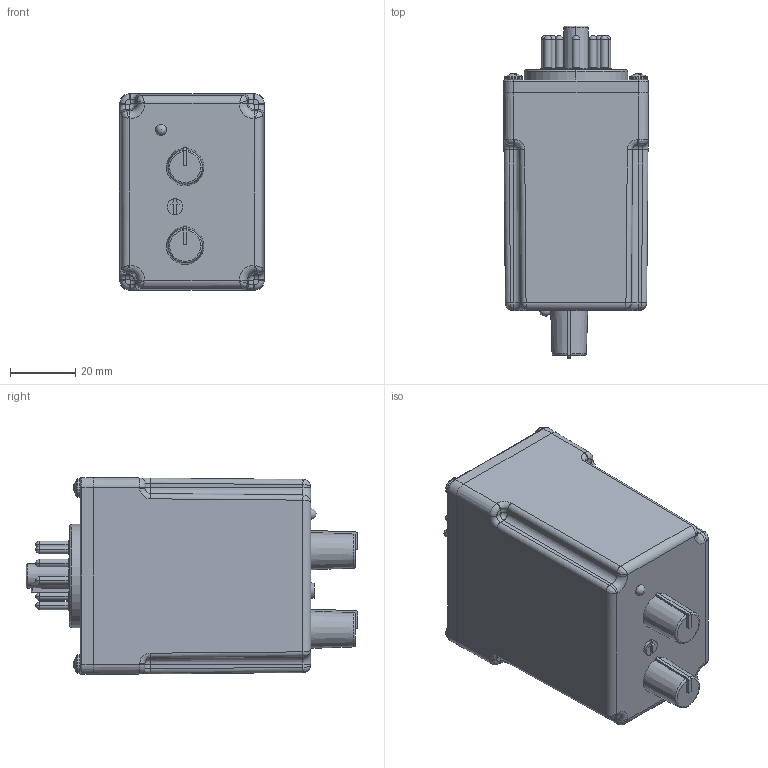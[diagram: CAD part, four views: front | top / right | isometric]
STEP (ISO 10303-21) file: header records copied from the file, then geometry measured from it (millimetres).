
FILE_DESCRIPTION(('FreeCAD Model'),'2;1');
FILE_NAME('Open CASCADE Shape Model','2023-06-06T11:57:19',(''),(''), 'Open CASCADE STEP processor 7.6','FreeCAD','Unknown');
FILE_SCHEMA(('AUTOMOTIVE_DESIGN { 1 0 10303 214 1 1 1 1 }'));
Products named in the file (1): Compound001
Bounding box: 44.45 x 101.73 x 60.33 mm (x, y, z)
Surface area: 45795.4 mm2 (no closed solid volume)
Topology: 0 solids, 25 shells, 1965 faces, 4846 edges, 2998 vertices
Faces by surface type: plane 615, cylinder 531, bspline 326, torus 286, revolution 140, cone 64, sphere 3
Full cylindrical faces by diameter (mm): 4.83 x1
Entity records: 188890 total; most frequent: CARTESIAN_POINT 97067, DIRECTION 15322, ORIENTED_EDGE 9654, PCURVE 9654, DEFINITIONAL_REPRESENTATION 9654, LINE 8979, VECTOR 8979, EDGE_CURVE 4835
